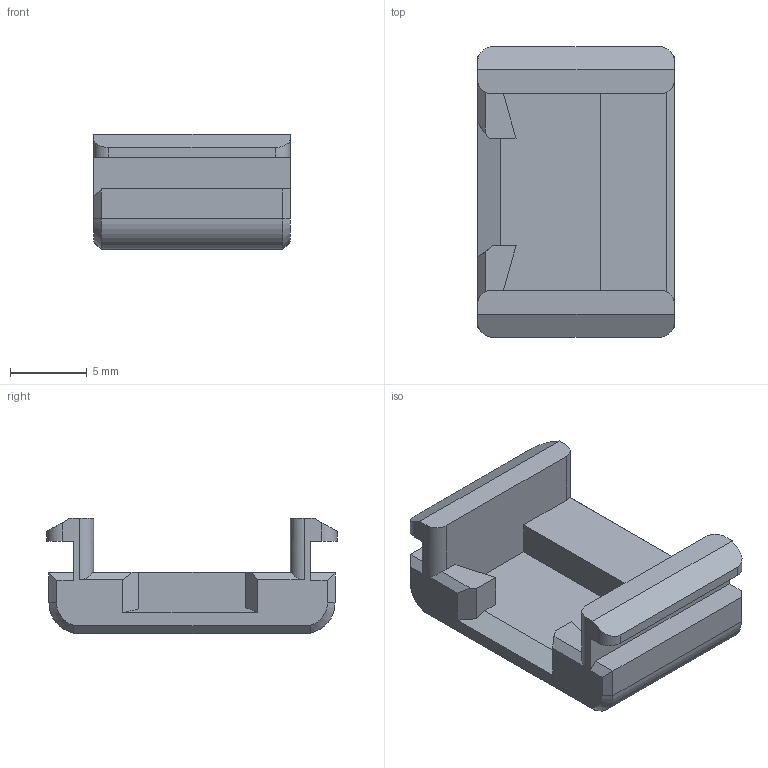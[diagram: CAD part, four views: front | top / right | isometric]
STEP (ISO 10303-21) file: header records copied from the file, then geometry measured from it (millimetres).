
FILE_DESCRIPTION(/* description */ (''),/* implementation_level */ '2;1');
FILE_NAME(/* name */ 'F:/Phasespacce 2019/VR Rift/Face Shield Poly/Production/Face Shiel Parts final/Good Clip 4 Poly bend v9.step',/* time_stamp */ '2020-04-01T10:11:14-07:00',/* author */ (''),/* organization */ (''),/* preprocessor_version */ 'ST-DEVELOPER v18',/* originating_system */ 'Autodesk Translation Framework v8.12.0.6',/* authorisation */ '');
FILE_SCHEMA (('AUTOMOTIVE_DESIGN { 1 0 10303 214 3 1 1 }'));
Length unit declared in the file: millimetre
Products named in the file (1): Good Clip 4 Poly bend
Bounding box: 12.8 x 18.9 x 7.5 mm (x, y, z)
Volume: 885.3 mm3; surface area: 1010.4 mm2
Topology: 1 solids, 1 shells, 58 faces, 162 edges, 106 vertices
Faces by surface type: plane 44, cylinder 10, cone 4
Entity records: 1875 total; most frequent: CARTESIAN_POINT 335, ORIENTED_EDGE 324, DIRECTION 304, EDGE_CURVE 162, LINE 130, VECTOR 130, VERTEX_POINT 106, AXIS2_PLACEMENT_3D 87
